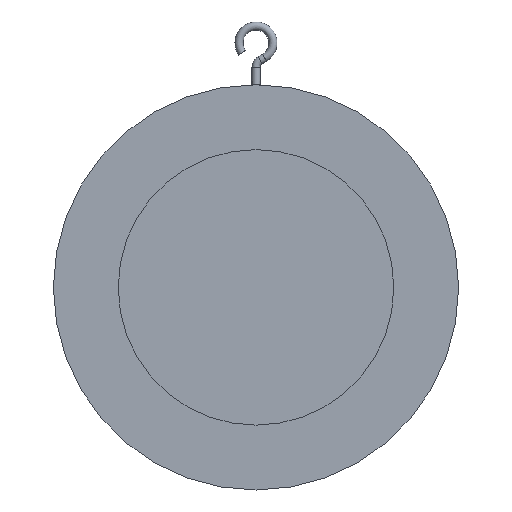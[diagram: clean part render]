
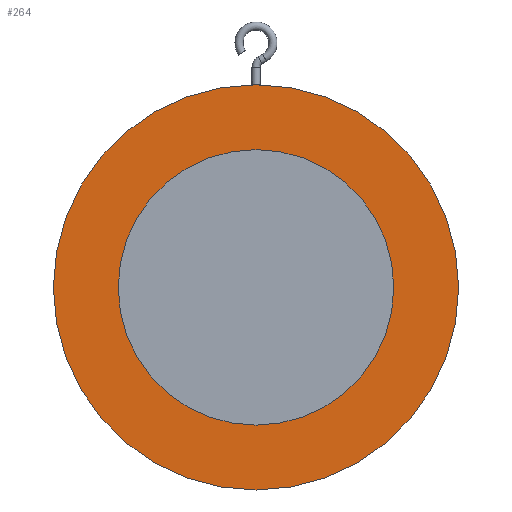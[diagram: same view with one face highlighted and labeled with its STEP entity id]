
A CAD part, front view. The second image highlights one B-rep face of the part: STEP entity #264.
In plain terms, the highlighted planar face has unit normal (0, -1, 0).
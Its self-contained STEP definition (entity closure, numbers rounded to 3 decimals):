
#264=ADVANCED_FACE('',(#509,#511),#513,.T.);
#509=FACE_BOUND('',#510,.T.);
#510=EDGE_LOOP('',(#680));
#511=FACE_BOUND('',#512,.T.);
#512=EDGE_LOOP('',(#681));
#513=PLANE('',#514);
#514=AXIS2_PLACEMENT_3D('',#515,#516,#517);
#515=CARTESIAN_POINT('',(0.,-29.,0.));
#516=DIRECTION('',(0.,-1.,0.));
#517=DIRECTION('',(0.,0.,1.));
#680=ORIENTED_EDGE('',*,*,#747,.F.);
#681=ORIENTED_EDGE('',*,*,#749,.T.);
#747=EDGE_CURVE('',#847,#847,#848,.T.);
#749=EDGE_CURVE('',#851,#851,#852,.T.);
#847=VERTEX_POINT('',#1367);
#848=CIRCLE('',#1368,298.5);
#851=VERTEX_POINT('',#1377);
#852=CIRCLE('',#1378,203.);
#1367=CARTESIAN_POINT('',(0.,-29.,298.5));
#1368=AXIS2_PLACEMENT_3D('',#1369,#1370,#1371);
#1369=CARTESIAN_POINT('',(0.,-29.,0.));
#1370=DIRECTION('',(0.,1.,0.));
#1371=DIRECTION('',(0.,0.,1.));
#1377=CARTESIAN_POINT('',(0.,-29.,203.));
#1378=AXIS2_PLACEMENT_3D('',#1379,#1380,#1381);
#1379=CARTESIAN_POINT('',(0.,-29.,0.));
#1380=DIRECTION('',(0.,1.,0.));
#1381=DIRECTION('',(0.,0.,1.));
